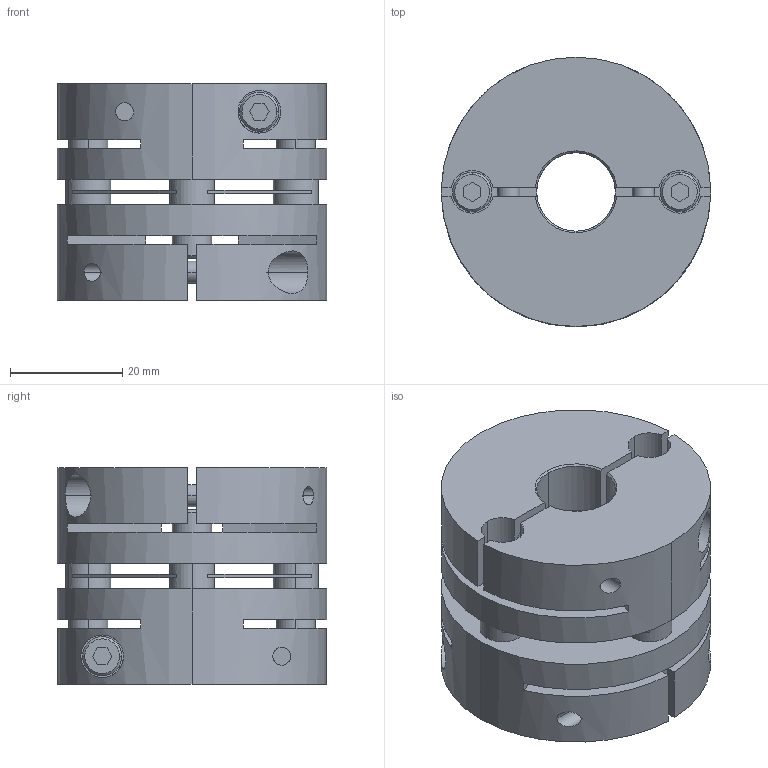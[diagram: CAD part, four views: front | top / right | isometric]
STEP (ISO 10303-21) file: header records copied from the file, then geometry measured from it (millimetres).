
FILE_DESCRIPTION((''),'2;1');
FILE_NAME('LAS-48C-14×19.stp','2013-06-12T09:41:57',(''),(''),'AutoCAD STEP 2000i','AutoCAD 2000i',', , ');
FILE_SCHEMA(('CONFIG_CONTROL_DESIGN'));
Length unit declared in the file: millimetre
Products named in the file (6): LAS-48C-12×19; 忣兜1; LA-4802-D19; LA-4802-D12-1; LA-4802-D12; LAS48-ITA
Assembly tree (5 placements, depth 2):
  LAS-48C-12×19
    忣兜1
    LA-4802-D19
    LA-4802-D12-1
    LA-4802-D12
    LAS48-ITA
Bounding box: 48 x 48 x 38.6 mm (x, y, z)
Volume: 48732.4 mm3; surface area: 22198.8 mm2
Topology: 1 solids, 1 shells, 224 faces, 600 edges, 392 vertices
Faces by surface type: plane 112, cylinder 84, cone 28
Entity records: 7841 total; most frequent: CARTESIAN_POINT 1878, DIRECTION 1256, ORIENTED_EDGE 1200, EDGE_CURVE 600, AXIS2_PLACEMENT_3D 458, VERTEX_POINT 392, VECTOR 340, LINE 340
